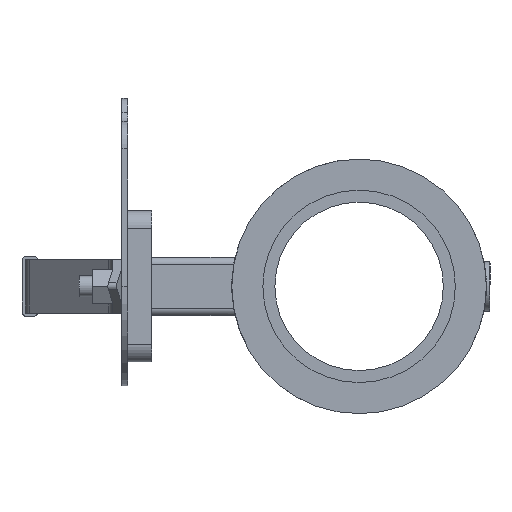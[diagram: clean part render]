
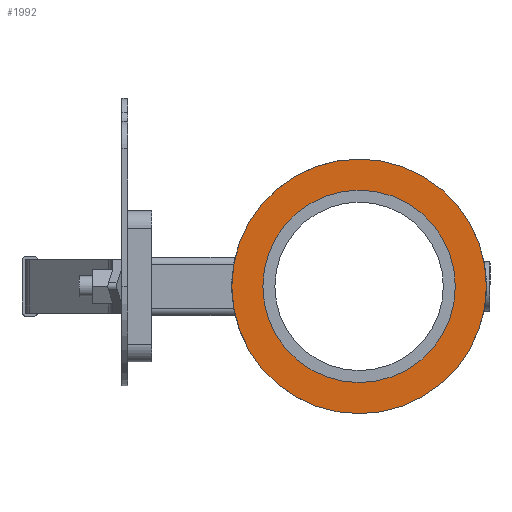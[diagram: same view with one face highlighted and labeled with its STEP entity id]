
A CAD part, left-side view. The second image highlights one B-rep face of the part: STEP entity #1992.
In plain terms, the highlighted planar face has unit normal (-1, 0, 0).
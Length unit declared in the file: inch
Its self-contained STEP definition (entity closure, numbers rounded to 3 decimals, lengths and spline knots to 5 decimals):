
#49=FACE_BOUND('',#278,.T.);
#86=PLANE('',#2252);
#157=FACE_OUTER_BOUND('',#277,.T.);
#277=EDGE_LOOP('',(#1431,#1432));
#278=EDGE_LOOP('',(#1433,#1434));
#674=CIRCLE('',#2174,2.315);
#675=CIRCLE('',#2175,2.315);
#716=CIRCLE('',#2250,1.6375);
#717=CIRCLE('',#2251,1.6375);
#801=VERTEX_POINT('',#3049);
#802=VERTEX_POINT('',#3051);
#858=VERTEX_POINT('',#3271);
#859=VERTEX_POINT('',#3272);
#982=EDGE_CURVE('',#801,#802,#674,.T.);
#983=EDGE_CURVE('',#802,#801,#675,.T.);
#1068=EDGE_CURVE('',#858,#859,#716,.T.);
#1069=EDGE_CURVE('',#859,#858,#717,.T.);
#1431=ORIENTED_EDGE('',*,*,#983,.F.);
#1432=ORIENTED_EDGE('',*,*,#982,.F.);
#1433=ORIENTED_EDGE('',*,*,#1068,.T.);
#1434=ORIENTED_EDGE('',*,*,#1069,.T.);
#1992=ADVANCED_FACE('',(#157,#49),#86,.T.);
#2174=AXIS2_PLACEMENT_3D('',#3052,#2409,#2410);
#2175=AXIS2_PLACEMENT_3D('',#3053,#2411,#2412);
#2250=AXIS2_PLACEMENT_3D('',#3273,#2601,#2602);
#2251=AXIS2_PLACEMENT_3D('',#3274,#2603,#2604);
#2252=AXIS2_PLACEMENT_3D('',#3276,#2606,#2607);
#2409=DIRECTION('center_axis',(1.,0.,0.));
#2410=DIRECTION('ref_axis',(0.,0.,-1.));
#2411=DIRECTION('center_axis',(1.,0.,0.));
#2412=DIRECTION('ref_axis',(0.,0.,-1.));
#2601=DIRECTION('center_axis',(1.,0.,0.));
#2602=DIRECTION('ref_axis',(0.,0.,-1.));
#2603=DIRECTION('center_axis',(1.,0.,0.));
#2604=DIRECTION('ref_axis',(0.,0.,-1.));
#2606=DIRECTION('center_axis',(-1.,0.,0.));
#2607=DIRECTION('ref_axis',(0.,0.,1.));
#3049=CARTESIAN_POINT('',(-1.39,-2.315,0.));
#3051=CARTESIAN_POINT('',(-1.39,2.315,0.));
#3052=CARTESIAN_POINT('Origin',(-1.39,0.,0.));
#3053=CARTESIAN_POINT('Origin',(-1.39,0.,0.));
#3271=CARTESIAN_POINT('',(-1.39,1.6375,0.));
#3272=CARTESIAN_POINT('',(-1.39,-1.6375,0.));
#3273=CARTESIAN_POINT('Origin',(-1.39,0.,0.));
#3274=CARTESIAN_POINT('Origin',(-1.39,0.,0.));
#3276=CARTESIAN_POINT('Origin',(-1.39,1.75,0.));
